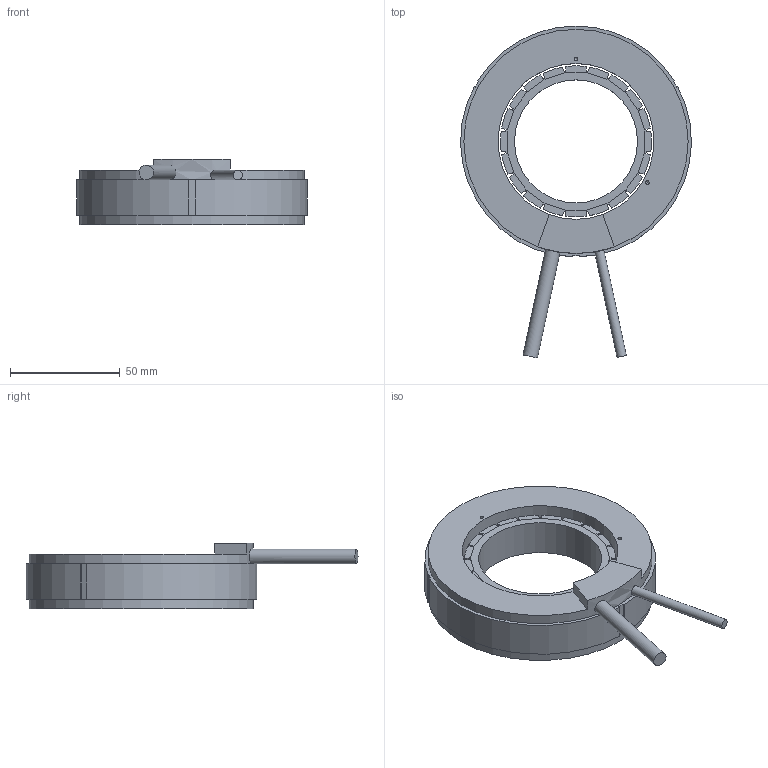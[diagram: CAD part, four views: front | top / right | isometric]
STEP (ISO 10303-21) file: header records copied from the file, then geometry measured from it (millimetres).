
FILE_DESCRIPTION(/* description */ ('Unknown'),/* implementation_level */ '2;1');
FILE_NAME(/* name */ 'Torque_QTR_105_25_YZ_Kit_CAD_180906',/* time_stamp */ '2018-09-06T16:54:58+02:00',/* author */ ('Unknown'),/* organization */ ('Unknown'),/* preprocessor_version */ 'ST-DEVELOPER v16.7',/* originating_system */ 'DEX',/* authorisation */ $);
FILE_SCHEMA (('AUTOMOTIVE_DESIGN {1 0 10303 214 3 1 1}'));
Length unit declared in the file: millimetre
Products named in the file (1): Torque_QTR_105_25_YZ_Kit_CAD_180906
Bounding box: 104.99 x 151.01 x 30 mm (x, y, z)
Volume: 137601.5 mm3; surface area: 35440.8 mm2
Topology: 2 solids, 2 shells, 273 faces, 720 edges, 454 vertices
Faces by surface type: plane 220, cylinder 51, cone 2
Full cylindrical faces by diameter (mm): 1.65 x2, 4.3 x1, 6.7 x1, 56 x1, 70.9 x1, 102 x2
Entity records: 8197 total; most frequent: CARTESIAN_POINT 1444, ORIENTED_EDGE 1404, DIRECTION 1350, EDGE_CURVE 702, LINE 598, VECTOR 598, VERTEX_POINT 448, AXIS2_PLACEMENT_3D 376
